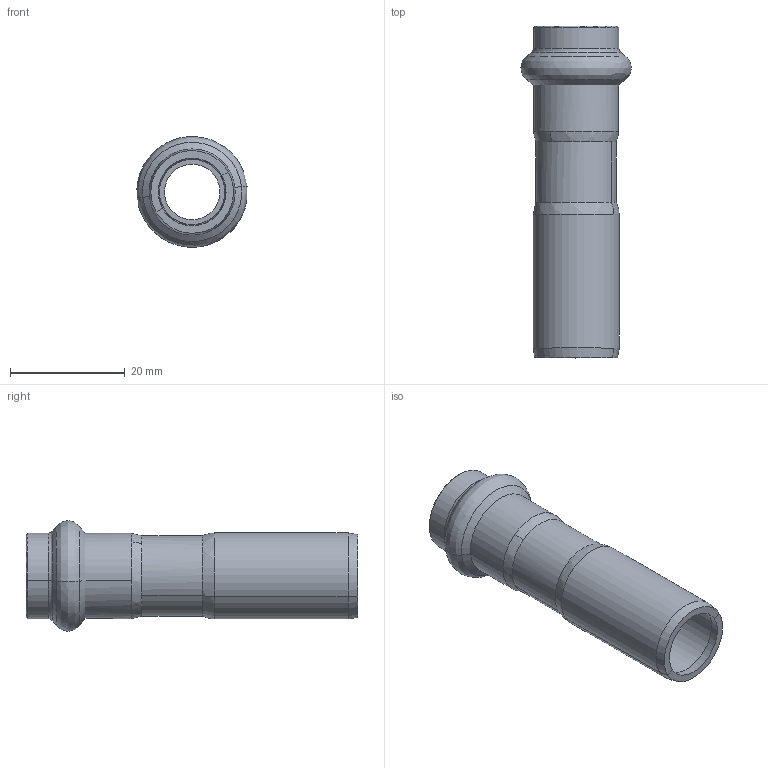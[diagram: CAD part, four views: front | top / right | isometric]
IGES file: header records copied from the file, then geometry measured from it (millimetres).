
Start section: Elysium IGES Interface
Global section: file name: C:\3d modellen sudo\C-Pr VP\SP8243V\8243VW1512.igs; native system: CoCreate Modeling 17.00A  17-Jun-2010; preprocessor: CoCreate IGES_3D V2.2; author: Unknown; organization: Unknown; date: 20130305.091817; units: millimetre
Bounding box: 19.23 x 57.8 x 19.28 mm (x, y, z)
Volume: 3700.3 mm3; surface area: 5220.8 mm2
Topology: 1 solids, 1 shells, 53 faces, 116 edges, 66 vertices
Faces by surface type: bspline 53
